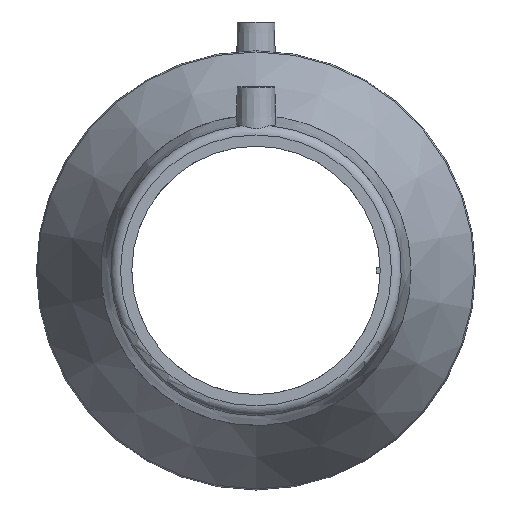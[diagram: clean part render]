
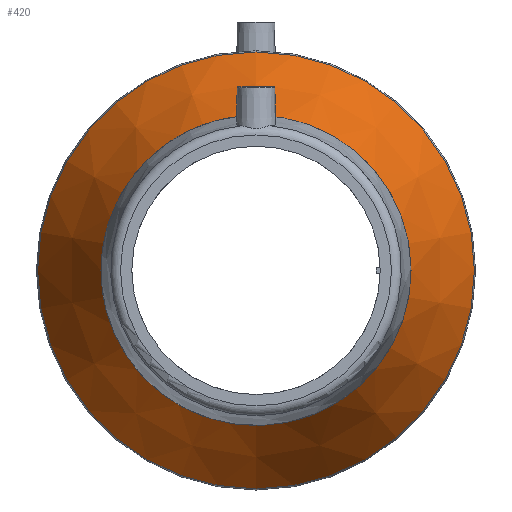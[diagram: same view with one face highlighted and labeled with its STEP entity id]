
A CAD part, left-side view. The second image highlights one B-rep face of the part: STEP entity #420.
In plain terms, the highlighted conical face has half-angle 28.048 degrees and reference radius 110.5 mm.
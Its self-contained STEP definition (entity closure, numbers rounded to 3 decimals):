
#77=CIRCLE('',#477,78.);
#78=CIRCLE('',#478,109.913);
#113=ORIENTED_EDGE('',*,*,#203,.F.);
#114=ORIENTED_EDGE('',*,*,#204,.T.);
#203=EDGE_CURVE('',#248,#248,#77,.T.);
#204=EDGE_CURVE('',#249,#249,#78,.T.);
#248=VERTEX_POINT('',#730);
#249=VERTEX_POINT('',#732);
#291=EDGE_LOOP('',(#113));
#292=EDGE_LOOP('',(#114));
#355=FACE_BOUND('',#291,.T.);
#356=FACE_BOUND('',#292,.T.);
#411=CONICAL_SURFACE('',#476,110.5,0.49);
#420=ADVANCED_FACE('',(#355,#356),#411,.T.);
#476=AXIS2_PLACEMENT_3D('',#728,#556,#557);
#477=AXIS2_PLACEMENT_3D('',#729,#558,#559);
#478=AXIS2_PLACEMENT_3D('',#731,#560,#561);
#556=DIRECTION('',(1.,0.,0.));
#557=DIRECTION('',(0.,0.,-1.));
#558=DIRECTION('',(-1.,0.,0.));
#559=DIRECTION('',(0.,0.,1.));
#560=DIRECTION('',(-1.,0.,0.));
#561=DIRECTION('',(0.,0.,1.));
#728=CARTESIAN_POINT('',(30.5,0.,0.));
#729=CARTESIAN_POINT('',(-30.5,0.,0.));
#730=CARTESIAN_POINT('',(-30.5,0.,78.));
#731=CARTESIAN_POINT('',(29.398,0.,0.));
#732=CARTESIAN_POINT('',(29.398,0.,109.913));
